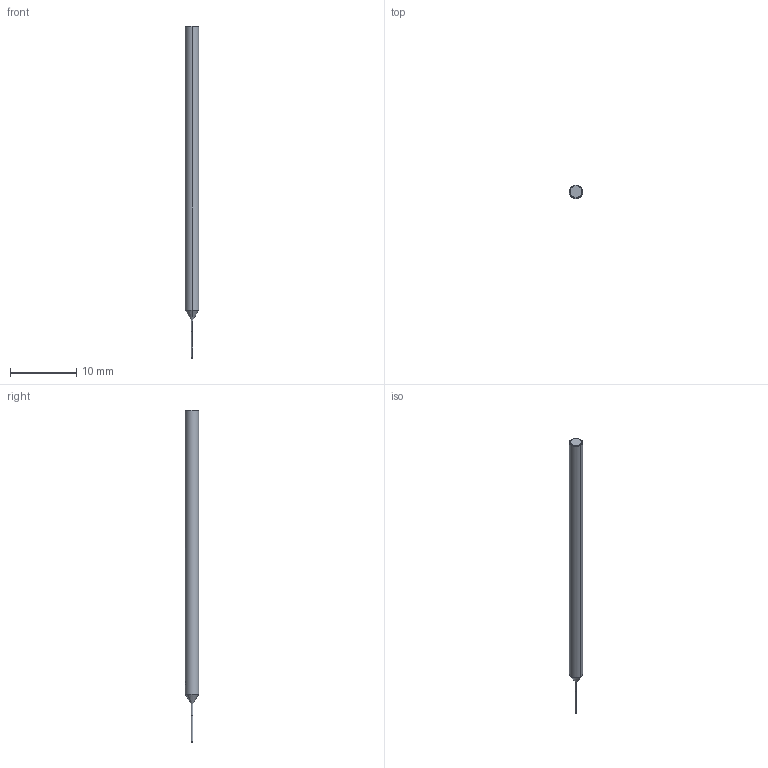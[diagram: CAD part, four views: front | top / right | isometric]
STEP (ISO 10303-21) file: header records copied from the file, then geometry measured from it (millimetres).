
FILE_DESCRIPTION(('no description'),'unknown implementation level');
FILE_NAME('solidy8iXQEWSxzoC4m6U4N70XaVnf6U_1.STP',' ',('CIMSOURCE GmbH'),('CADClick - KiM GmbH - www.kimweb.de'),'unknown preprocess','ACIS','unknown authorization');
FILE_SCHEMA(('automotive_design'));
Length unit declared in the file: millimetre
Products named in the file (2): NOCUT; CUT
Bounding box: 2 x 2 x 50 mm (x, y, z)
Volume: 136.6 mm3; surface area: 285.8 mm2
Topology: 2 solids, 2 shells, 38 faces, 87 edges, 54 vertices
Faces by surface type: cylinder 18, cone 10, plane 10
Entity records: 2334 total; most frequent: CARTESIAN_POINT 401, DIRECTION 195, STYLED_ITEM 181, PRESENTATION_STYLE_ASSIGNMENT 181, COLOUR_RGB 181, ORIENTED_EDGE 174, EDGE_CURVE 87, CURVE_STYLE 87
